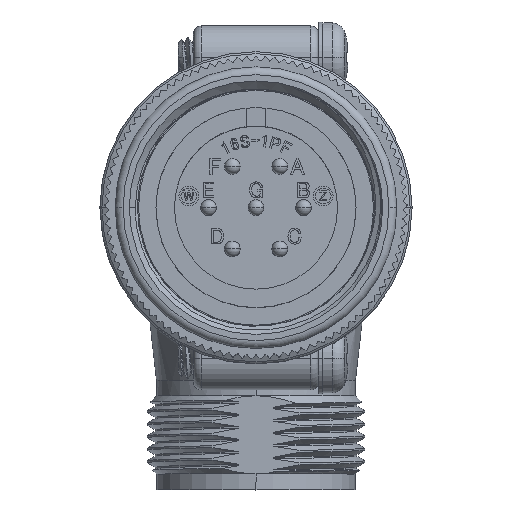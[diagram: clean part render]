
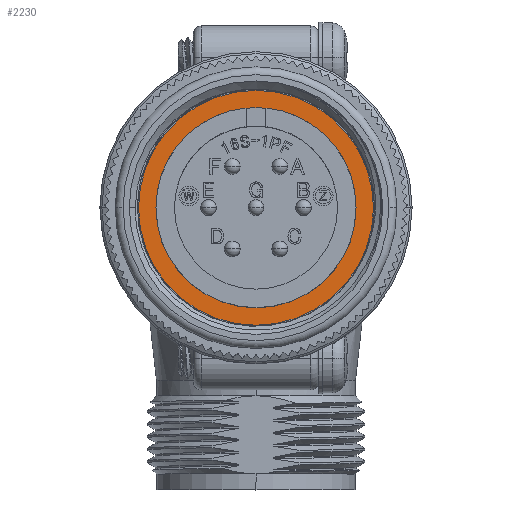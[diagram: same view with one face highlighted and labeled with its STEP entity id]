
A CAD part, top view. The second image highlights one B-rep face of the part: STEP entity #2230.
In plain terms, the highlighted planar face has unit normal (0, 0, 1).
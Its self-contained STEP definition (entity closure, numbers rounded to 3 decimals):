
#39 = DIRECTION ( 'NONE',  ( 0., 0., 1. ) ) ;
#2230 = ADVANCED_FACE ( 'NONE', ( #30464, #2368 ), #26563, .F. ) ;
#2368 = FACE_OUTER_BOUND ( 'NONE', #57655, .T. ) ;
#4241 = DIRECTION ( 'NONE',  ( -1., 0., 0. ) ) ;
#7736 = EDGE_CURVE ( 'NONE', #37134, #43566, #47595, .T. ) ;
#10808 = CARTESIAN_POINT ( 'NONE',  ( -11.925, 0., -13.49 ) ) ;
#11956 = CIRCLE ( 'NONE', #43384, 10.16 ) ;
#12761 = VERTEX_POINT ( 'NONE', #10808 ) ;
#16614 = DIRECTION ( 'NONE',  ( 0., 0., 1. ) ) ;
#16803 = ORIENTED_EDGE ( 'NONE', *, *, #45093, .T. ) ;
#16980 = CIRCLE ( 'NONE', #50080, 11.925 ) ;
#17262 = CARTESIAN_POINT ( 'NONE',  ( 0., 0., -13.49 ) ) ;
#22915 = DIRECTION ( 'NONE',  ( 1., 0., 0. ) ) ;
#25269 = CIRCLE ( 'NONE', #32230, 11.925 ) ;
#25429 = DIRECTION ( 'NONE',  ( 0., 0., 1. ) ) ;
#26563 = PLANE ( 'NONE',  #47567 ) ;
#27197 = EDGE_LOOP ( 'NONE', ( #66895, #35194 ) ) ;
#30464 = FACE_BOUND ( 'NONE', #27197, .T. ) ;
#32230 = AXIS2_PLACEMENT_3D ( 'NONE', #17262, #56400, #22915 ) ;
#33692 = CARTESIAN_POINT ( 'NONE',  ( 0., 0., -13.49 ) ) ;
#35194 = ORIENTED_EDGE ( 'NONE', *, *, #7736, .F. ) ;
#37134 = VERTEX_POINT ( 'NONE', #65063 ) ;
#38807 = CARTESIAN_POINT ( 'NONE',  ( 0., 10.16, -13.49 ) ) ;
#39323 = DIRECTION ( 'NONE',  ( 1., 0., 0. ) ) ;
#39992 = CARTESIAN_POINT ( 'NONE',  ( 11.925, 0., -13.49 ) ) ;
#40002 = AXIS2_PLACEMENT_3D ( 'NONE', #33692, #39, #39323 ) ;
#43384 = AXIS2_PLACEMENT_3D ( 'NONE', #50168, #16614, #55770 ) ;
#43566 = VERTEX_POINT ( 'NONE', #72010 ) ;
#45093 = EDGE_CURVE ( 'NONE', #47105, #12761, #25269, .T. ) ;
#47105 = VERTEX_POINT ( 'NONE', #39992 ) ;
#47567 = AXIS2_PLACEMENT_3D ( 'NONE', #38807, #72038, #4241 ) ;
#47595 = CIRCLE ( 'NONE', #40002, 10.16 ) ;
#50080 = AXIS2_PLACEMENT_3D ( 'NONE', #58916, #25429, #64548 ) ;
#50168 = CARTESIAN_POINT ( 'NONE',  ( 0., 0., -13.49 ) ) ;
#54519 = EDGE_CURVE ( 'NONE', #12761, #47105, #16980, .T. ) ;
#55770 = DIRECTION ( 'NONE',  ( 1., 0., 0. ) ) ;
#56400 = DIRECTION ( 'NONE',  ( 0., 0., 1. ) ) ;
#56943 = ORIENTED_EDGE ( 'NONE', *, *, #54519, .T. ) ;
#57655 = EDGE_LOOP ( 'NONE', ( #16803, #56943 ) ) ;
#58916 = CARTESIAN_POINT ( 'NONE',  ( 0., 0., -13.49 ) ) ;
#64548 = DIRECTION ( 'NONE',  ( 1., 0., 0. ) ) ;
#65063 = CARTESIAN_POINT ( 'NONE',  ( -10.16, 0., -13.49 ) ) ;
#66000 = EDGE_CURVE ( 'NONE', #43566, #37134, #11956, .T. ) ;
#66895 = ORIENTED_EDGE ( 'NONE', *, *, #66000, .F. ) ;
#72010 = CARTESIAN_POINT ( 'NONE',  ( 10.16, 0., -13.49 ) ) ;
#72038 = DIRECTION ( 'NONE',  ( 0., 0., -1. ) ) ;
